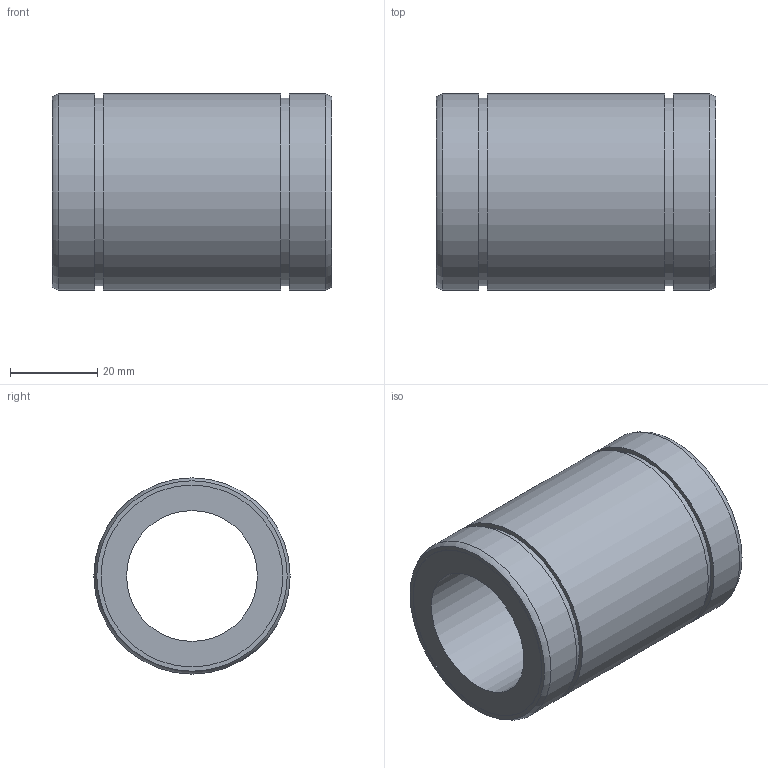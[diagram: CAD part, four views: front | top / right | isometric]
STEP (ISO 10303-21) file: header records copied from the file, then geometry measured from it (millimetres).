
FILE_DESCRIPTION((''),'2;1');
FILE_NAME('D:\製品 (図面)\カタログ用3D\リニアベアリング関連\STEP形式\L\L30.stp','2010-06-02T17:33:27',('Tsuchiya'),(''),'Autodesk Inventor 10','Autodesk Inventor 10','');
FILE_SCHEMA(('AUTOMOTIVE_DESIGN { 1 0 10303 214 1 1 1 1 }'));
Length unit declared in the file: millimetre
Products named in the file (1): L30
Bounding box: 64 x 45 x 45 mm (x, y, z)
Volume: 55794.3 mm3; surface area: 17236.5 mm2
Topology: 1 solids, 1 shells, 18 faces, 28 edges, 18 vertices
Faces by surface type: cylinder 8, plane 8, torus 2
Full cylindrical faces by diameter (mm): 30 x1, 41.7 x2, 43 x2, 45 x3
Entity records: 391 total; most frequent: DIRECTION 74, CARTESIAN_POINT 55, AXIS2_PLACEMENT_3D 37, ORIENTED_EDGE 36, EDGE_LOOP 36, VERTEX_POINT 18, CIRCLE 18, EDGE_CURVE 18
